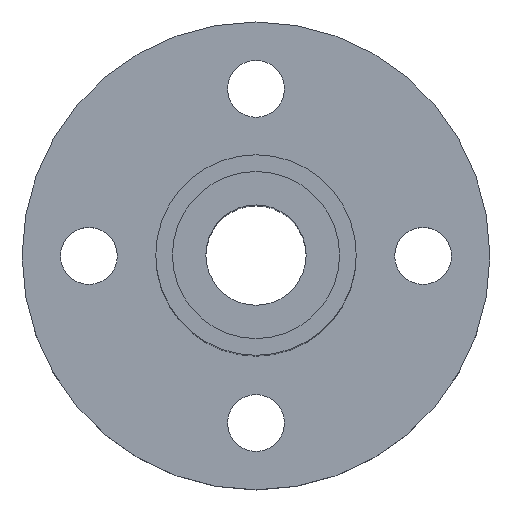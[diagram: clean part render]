
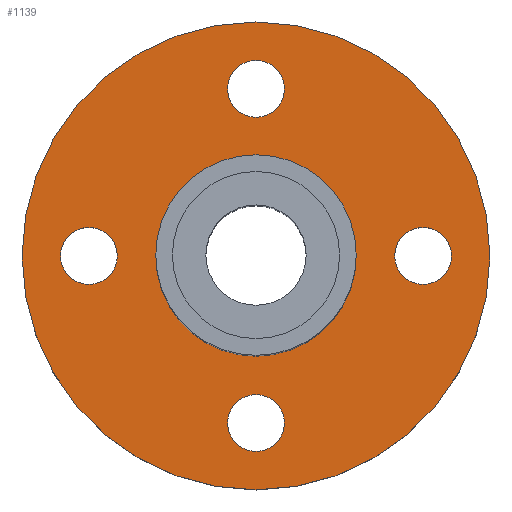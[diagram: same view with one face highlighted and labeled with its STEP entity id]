
A CAD part, top view. The second image highlights one B-rep face of the part: STEP entity #1139.
In plain terms, the highlighted planar face has unit normal (0, 0, 1).
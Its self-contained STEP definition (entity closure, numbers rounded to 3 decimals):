
#51=CARTESIAN_POINT('',(-14.,-0.1,5.0));
#52=VERTEX_POINT('',#51);
#68=CARTESIAN_POINT('',(14.,-0.1,5.0));
#69=VERTEX_POINT('',#68);
#76=CARTESIAN_POINT('',(0.0,-0.1,5.0));
#77=DIRECTION('',(0.0,0.0,-1.0));
#78=DIRECTION('',(-1.0,0.0,0.0));
#79=AXIS2_PLACEMENT_3D('',#76,#77,#78);
#80=CIRCLE('',#79,14.);
#81=EDGE_CURVE('',#69,#52,#80,.T.);
#133=CARTESIAN_POINT('',(-6.,-0.1,5.0));
#134=VERTEX_POINT('',#133);
#143=CARTESIAN_POINT('',(6.,-0.1,5.0));
#144=VERTEX_POINT('',#143);
#145=CARTESIAN_POINT('',(0.0,-0.1,5.0));
#146=DIRECTION('',(0.0,0.0,-1.0));
#147=DIRECTION('',(-1.0,0.0,0.0));
#148=AXIS2_PLACEMENT_3D('',#145,#146,#147);
#149=CIRCLE('',#148,6.);
#150=EDGE_CURVE('',#144,#134,#149,.T.);
#345=CARTESIAN_POINT('',(0.0,8.2,5.));
#346=VERTEX_POINT('',#345);
#362=CARTESIAN_POINT('',(0.,11.6,5.0));
#363=VERTEX_POINT('',#362);
#370=CARTESIAN_POINT('',(0.0,9.9,5.0));
#371=DIRECTION('',(0.0,0.0,-1.0));
#372=DIRECTION('',(0.0,-1.0,0.0));
#373=AXIS2_PLACEMENT_3D('',#370,#371,#372);
#374=CIRCLE('',#373,1.7);
#375=EDGE_CURVE('',#346,#363,#374,.T.);
#429=CARTESIAN_POINT('',(-8.3,-0.1,5.));
#430=VERTEX_POINT('',#429);
#446=CARTESIAN_POINT('',(-11.7,-0.1,5.0));
#447=VERTEX_POINT('',#446);
#454=CARTESIAN_POINT('',(-10.,-0.1,5.0));
#455=DIRECTION('',(0.0,0.0,-1.0));
#456=DIRECTION('',(1.0,0.0,0.0));
#457=AXIS2_PLACEMENT_3D('',#454,#455,#456);
#458=CIRCLE('',#457,1.7);
#459=EDGE_CURVE('',#430,#447,#458,.T.);
#513=CARTESIAN_POINT('',(0.,-8.4,5.));
#514=VERTEX_POINT('',#513);
#530=CARTESIAN_POINT('',(0.,-11.8,5.0));
#531=VERTEX_POINT('',#530);
#538=CARTESIAN_POINT('',(0.,-10.1,5.0));
#539=DIRECTION('',(0.0,0.0,-1.0));
#540=DIRECTION('',(0.0,1.0,0.0));
#541=AXIS2_PLACEMENT_3D('',#538,#539,#540);
#542=CIRCLE('',#541,1.7);
#543=EDGE_CURVE('',#514,#531,#542,.T.);
#597=CARTESIAN_POINT('',(8.3,-0.1,5.));
#598=VERTEX_POINT('',#597);
#614=CARTESIAN_POINT('',(11.7,-0.1,5.0));
#615=VERTEX_POINT('',#614);
#622=CARTESIAN_POINT('',(10.,-0.1,5.0));
#623=DIRECTION('',(0.0,0.0,-1.0));
#624=DIRECTION('',(-1.0,0.0,0.0));
#625=AXIS2_PLACEMENT_3D('',#622,#623,#624);
#626=CIRCLE('',#625,1.7);
#627=EDGE_CURVE('',#598,#615,#626,.T.);
#638=CARTESIAN_POINT('',(10.,-0.1,5.0));
#639=DIRECTION('',(0.0,0.0,-1.0));
#640=DIRECTION('',(-1.0,0.0,0.0));
#641=AXIS2_PLACEMENT_3D('',#638,#639,#640);
#642=CIRCLE('',#641,1.7);
#643=EDGE_CURVE('',#615,#598,#642,.T.);
#700=CARTESIAN_POINT('',(0.,-10.1,5.0));
#701=DIRECTION('',(0.0,0.0,-1.0));
#702=DIRECTION('',(0.0,1.0,0.0));
#703=AXIS2_PLACEMENT_3D('',#700,#701,#702);
#704=CIRCLE('',#703,1.7);
#705=EDGE_CURVE('',#531,#514,#704,.T.);
#762=CARTESIAN_POINT('',(-10.,-0.1,5.0));
#763=DIRECTION('',(0.0,0.0,-1.0));
#764=DIRECTION('',(1.0,0.0,0.0));
#765=AXIS2_PLACEMENT_3D('',#762,#763,#764);
#766=CIRCLE('',#765,1.7);
#767=EDGE_CURVE('',#447,#430,#766,.T.);
#824=CARTESIAN_POINT('',(0.0,9.9,5.0));
#825=DIRECTION('',(0.0,0.0,-1.0));
#826=DIRECTION('',(0.0,-1.0,0.0));
#827=AXIS2_PLACEMENT_3D('',#824,#825,#826);
#828=CIRCLE('',#827,1.7);
#829=EDGE_CURVE('',#363,#346,#828,.T.);
#1056=CARTESIAN_POINT('',(0.0,-0.1,5.0));
#1057=DIRECTION('',(0.0,0.0,-1.0));
#1058=DIRECTION('',(-1.0,0.0,0.0));
#1059=AXIS2_PLACEMENT_3D('',#1056,#1057,#1058);
#1060=CIRCLE('',#1059,6.);
#1061=EDGE_CURVE('',#134,#144,#1060,.T.);
#1098=CARTESIAN_POINT('',(0.0,-0.1,5.0));
#1099=DIRECTION('',(0.0,0.0,-1.0));
#1100=DIRECTION('',(-1.0,0.0,0.0));
#1101=AXIS2_PLACEMENT_3D('',#1098,#1099,#1100);
#1102=CIRCLE('',#1101,14.);
#1103=EDGE_CURVE('',#52,#69,#1102,.T.);
#1110=CARTESIAN_POINT('',(0.0,-0.1,5.0));
#1111=DIRECTION('',(0.0,0.0,-1.0));
#1112=DIRECTION('',(-1.0,0.0,0.0));
#1113=AXIS2_PLACEMENT_3D('',#1110,#1111,#1112);
#1114=PLANE('',#1113);
#1115=ORIENTED_EDGE('',*,*,#81,.F.);
#1116=ORIENTED_EDGE('',*,*,#1103,.F.);
#1117=EDGE_LOOP('',(#1115,#1116));
#1118=FACE_OUTER_BOUND('',#1117,.T.);
#1119=ORIENTED_EDGE('',*,*,#627,.T.);
#1120=ORIENTED_EDGE('',*,*,#643,.T.);
#1121=EDGE_LOOP('',(#1119,#1120));
#1122=FACE_BOUND('',#1121,.T.);
#1123=ORIENTED_EDGE('',*,*,#543,.T.);
#1124=ORIENTED_EDGE('',*,*,#705,.T.);
#1125=EDGE_LOOP('',(#1123,#1124));
#1126=FACE_BOUND('',#1125,.T.);
#1127=ORIENTED_EDGE('',*,*,#459,.T.);
#1128=ORIENTED_EDGE('',*,*,#767,.T.);
#1129=EDGE_LOOP('',(#1127,#1128));
#1130=FACE_BOUND('',#1129,.T.);
#1131=ORIENTED_EDGE('',*,*,#375,.T.);
#1132=ORIENTED_EDGE('',*,*,#829,.T.);
#1133=EDGE_LOOP('',(#1131,#1132));
#1134=FACE_BOUND('',#1133,.T.);
#1135=ORIENTED_EDGE('',*,*,#150,.T.);
#1136=ORIENTED_EDGE('',*,*,#1061,.T.);
#1137=EDGE_LOOP('',(#1135,#1136));
#1138=FACE_BOUND('',#1137,.T.);
#1139=ADVANCED_FACE('',(#1118,#1122,#1126,#1130,#1134,#1138),#1114,.F.);
